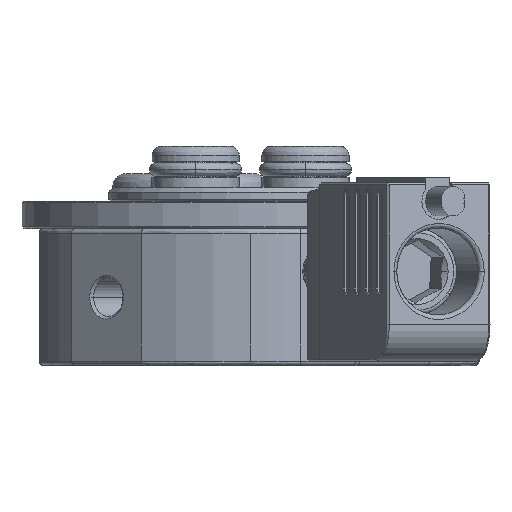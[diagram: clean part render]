
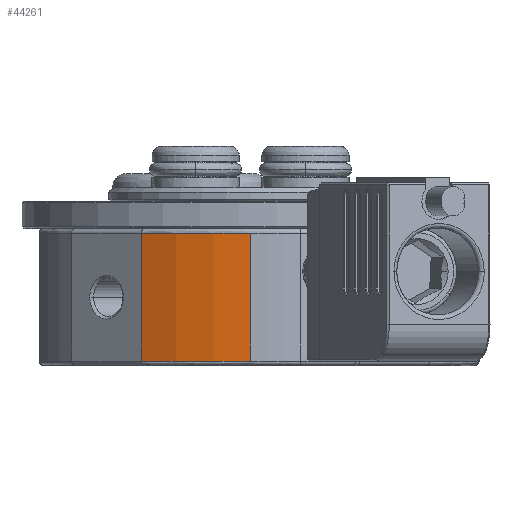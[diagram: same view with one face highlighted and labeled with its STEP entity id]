
A CAD part, front view. The second image highlights one B-rep face of the part: STEP entity #44261.
In plain terms, the highlighted cylindrical face has radius 25 mm (diameter 50 mm), a partial arc.
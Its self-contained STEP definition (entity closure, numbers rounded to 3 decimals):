
#927 = LINE ( 'NONE', #28672, #40034 ) ;
#2796 = DIRECTION ( 'NONE',  ( 0., 0., -1. ) ) ;
#4271 = VERTEX_POINT ( 'NONE', #31063 ) ;
#6410 = EDGE_CURVE ( 'NONE', #6458, #33983, #927, .T. ) ;
#6458 = VERTEX_POINT ( 'NONE', #39922 ) ;
#8086 = DIRECTION ( 'NONE',  ( 0., 0., -1. ) ) ;
#9784 = CARTESIAN_POINT ( 'NONE',  ( -11.937, -21.966, -19. ) ) ;
#10918 = AXIS2_PLACEMENT_3D ( 'NONE', #14128, #39694, #17849 ) ;
#11551 = ORIENTED_EDGE ( 'NONE', *, *, #6410, .T. ) ;
#13736 = VECTOR ( 'NONE', #23248, 1000. ) ;
#14128 = CARTESIAN_POINT ( 'NONE',  ( 0., 0., -19. ) ) ;
#14607 = ORIENTED_EDGE ( 'NONE', *, *, #33603, .F. ) ;
#14924 = LINE ( 'NONE', #30373, #13736 ) ;
#16150 = ORIENTED_EDGE ( 'NONE', *, *, #26310, .T. ) ;
#16432 = EDGE_CURVE ( 'NONE', #28073, #6458, #24963, .T. ) ;
#17849 = DIRECTION ( 'NONE',  ( 0., 1., 0. ) ) ;
#21731 = CARTESIAN_POINT ( 'NONE',  ( 0., 0., -19.5 ) ) ;
#23248 = DIRECTION ( 'NONE',  ( 0., 0., 1. ) ) ;
#24963 = CIRCLE ( 'NONE', #29986, 25. ) ;
#25107 = AXIS2_PLACEMENT_3D ( 'NONE', #21731, #43160, #47028 ) ;
#26310 = EDGE_CURVE ( 'NONE', #4271, #28073, #14924, .T. ) ;
#27682 = FACE_OUTER_BOUND ( 'NONE', #40199, .T. ) ;
#28073 = VERTEX_POINT ( 'NONE', #46871 ) ;
#28672 = CARTESIAN_POINT ( 'NONE',  ( -11.937, -21.966, -19.5 ) ) ;
#29986 = AXIS2_PLACEMENT_3D ( 'NONE', #30189, #8086, #33878 ) ;
#30189 = CARTESIAN_POINT ( 'NONE',  ( 0., 0., -5. ) ) ;
#30373 = CARTESIAN_POINT ( 'NONE',  ( 0., -25., -19.5 ) ) ;
#31063 = CARTESIAN_POINT ( 'NONE',  ( 0., -25., -19. ) ) ;
#33603 = EDGE_CURVE ( 'NONE', #4271, #33983, #46800, .T. ) ;
#33878 = DIRECTION ( 'NONE',  ( 0., -1., 0. ) ) ;
#33983 = VERTEX_POINT ( 'NONE', #9784 ) ;
#39694 = DIRECTION ( 'NONE',  ( 0., 0., -1. ) ) ;
#39922 = CARTESIAN_POINT ( 'NONE',  ( -11.937, -21.966, -5. ) ) ;
#40034 = VECTOR ( 'NONE', #2796, 1000. ) ;
#40199 = EDGE_LOOP ( 'NONE', ( #14607, #16150, #45078, #11551 ) ) ;
#43160 = DIRECTION ( 'NONE',  ( 0., 0., 1. ) ) ;
#44261 = ADVANCED_FACE ( 'NONE', ( #27682 ), #44655, .T. ) ;
#44655 = CYLINDRICAL_SURFACE ( 'NONE', #25107, 25. ) ;
#45078 = ORIENTED_EDGE ( 'NONE', *, *, #16432, .T. ) ;
#46800 = CIRCLE ( 'NONE', #10918, 25. ) ;
#46871 = CARTESIAN_POINT ( 'NONE',  ( 0., -25., -5. ) ) ;
#47028 = DIRECTION ( 'NONE',  ( 0., -1., 0. ) ) ;
